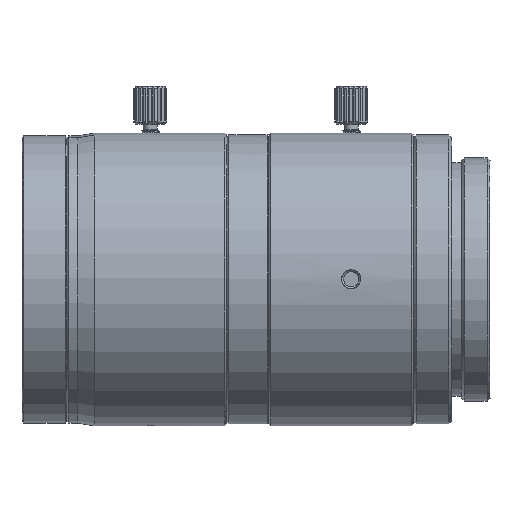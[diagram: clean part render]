
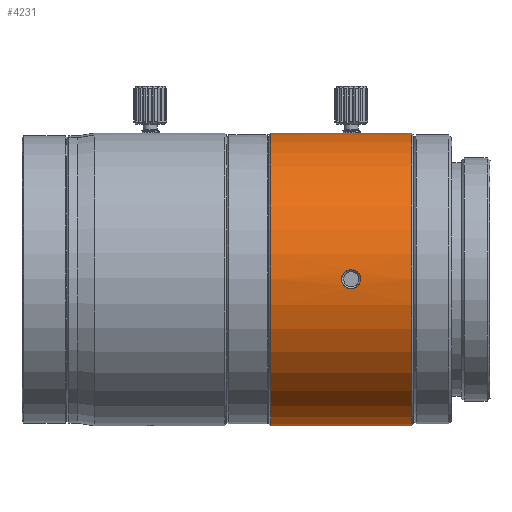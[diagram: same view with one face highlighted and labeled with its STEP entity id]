
A CAD part, top view. The second image highlights one B-rep face of the part: STEP entity #4231.
In plain terms, the highlighted cylindrical face has radius 15.3 mm (diameter 30.6 mm), a partial arc.
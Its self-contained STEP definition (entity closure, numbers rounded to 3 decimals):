
#5=CARTESIAN_POINT('',(-12.,0.,15.3));
#6=CARTESIAN_POINT('',(-12.,0.091,15.3));
#7=CARTESIAN_POINT('',(-12.025,0.266,15.298));
#8=CARTESIAN_POINT('',(-12.141,0.522,15.292));
#9=CARTESIAN_POINT('',(-12.328,0.735,15.283));
#10=CARTESIAN_POINT('',(-12.571,0.891,15.274));
#11=CARTESIAN_POINT('',(-12.853,0.973,15.269));
#12=CARTESIAN_POINT('',(-13.147,0.973,15.269));
#13=CARTESIAN_POINT('',(-13.429,0.891,15.274));
#14=CARTESIAN_POINT('',(-13.672,0.735,15.283));
#15=CARTESIAN_POINT('',(-13.859,0.522,15.292));
#16=CARTESIAN_POINT('',(-13.975,0.266,15.298));
#17=CARTESIAN_POINT('',(-14.,0.091,15.3));
#18=CARTESIAN_POINT('',(-14.,0.,15.3));
#20=CARTESIAN_POINT('',(-14.,0.,15.3));
#21=CARTESIAN_POINT('',(-14.,-0.091,15.3));
#22=CARTESIAN_POINT('',(-13.975,-0.266,15.298));
#23=CARTESIAN_POINT('',(-13.859,-0.522,15.292));
#24=CARTESIAN_POINT('',(-13.672,-0.735,15.283));
#25=CARTESIAN_POINT('',(-13.429,-0.891,15.274));
#26=CARTESIAN_POINT('',(-13.147,-0.973,15.269));
#27=CARTESIAN_POINT('',(-12.853,-0.973,15.269));
#28=CARTESIAN_POINT('',(-12.571,-0.891,15.274));
#29=CARTESIAN_POINT('',(-12.328,-0.735,15.283));
#30=CARTESIAN_POINT('',(-12.141,-0.522,15.292));
#31=CARTESIAN_POINT('',(-12.025,-0.266,15.298));
#32=CARTESIAN_POINT('',(-12.,-0.091,15.3));
#33=CARTESIAN_POINT('',(-12.,0.,15.3));
#35=CARTESIAN_POINT('',(-13.839,15.291,0.528));
#36=CARTESIAN_POINT('',(-13.835,15.291,0.536));
#37=CARTESIAN_POINT('',(-13.828,15.29,0.553));
#38=CARTESIAN_POINT('',(-13.82,15.289,0.57));
#39=CARTESIAN_POINT('',(-13.816,15.289,0.578));
#41=CARTESIAN_POINT('',(-13.816,15.289,0.578));
#42=CARTESIAN_POINT('',(-13.781,15.287,0.627));
#43=CARTESIAN_POINT('',(-13.705,15.283,0.717));
#44=CARTESIAN_POINT('',(-13.569,15.278,0.829));
#45=CARTESIAN_POINT('',(-13.467,15.274,0.886));
#46=CARTESIAN_POINT('',(-13.414,15.273,0.91));
#48=CARTESIAN_POINT('',(-13.414,15.273,0.91));
#49=CARTESIAN_POINT('',(-13.376,15.272,0.922));
#50=CARTESIAN_POINT('',(-13.301,15.271,0.939));
#51=CARTESIAN_POINT('',(-13.227,15.271,0.949));
#52=CARTESIAN_POINT('',(-13.191,15.27,0.951));
#54=CARTESIAN_POINT('',(-13.191,15.27,0.951));
#55=CARTESIAN_POINT('',(-13.105,15.269,0.968));
#56=CARTESIAN_POINT('',(-12.936,15.269,0.978));
#57=CARTESIAN_POINT('',(-12.681,15.272,0.93));
#58=CARTESIAN_POINT('',(-12.45,15.278,0.822));
#59=CARTESIAN_POINT('',(-12.255,15.286,0.662));
#60=CARTESIAN_POINT('',(-12.109,15.294,0.462));
#61=CARTESIAN_POINT('',(-12.019,15.299,0.234));
#62=CARTESIAN_POINT('',(-12.,15.3,0.079));
#63=CARTESIAN_POINT('',(-12.,15.3,0.));
#65=CARTESIAN_POINT('',(-6.7,0.,0.));
#66=DIRECTION('',(1.,0.,0.));
#67=DIRECTION('',(0.,1.,0.));
#68=AXIS2_PLACEMENT_3D('',#65,#66,#67);
#70=CARTESIAN_POINT('',(-21.4,0.,0.));
#71=DIRECTION('',(-1.,0.,0.));
#72=DIRECTION('',(0.,-1.,0.));
#73=AXIS2_PLACEMENT_3D('',#70,#71,#72);
#75=CARTESIAN_POINT('',(-14.,15.3,0.));
#76=CARTESIAN_POINT('',(-14.,15.3,0.062));
#77=CARTESIAN_POINT('',(-13.988,15.299,0.184));
#78=CARTESIAN_POINT('',(-13.934,15.296,0.362));
#79=CARTESIAN_POINT('',(-13.875,15.293,0.474));
#80=CARTESIAN_POINT('',(-13.839,15.291,0.528));
#311=DIRECTION('',(-1.,0.,0.));
#312=VECTOR('',#311,7.4);
#313=CARTESIAN_POINT('',(-14.,15.3,0.));
#314=LINE('',#313,#312);
#320=DIRECTION('',(1.,0.,0.));
#321=VECTOR('',#320,14.7);
#322=CARTESIAN_POINT('',(-21.4,-15.3,0.));
#323=LINE('',#322,#321);
#329=DIRECTION('',(-1.,0.,0.));
#330=VECTOR('',#329,5.3);
#331=CARTESIAN_POINT('',(-6.7,15.3,0.));
#332=LINE('',#331,#330);
#3578=CARTESIAN_POINT('',(-6.7,15.3,0.));
#3579=VERTEX_POINT('',#3578);
#3580=CARTESIAN_POINT('',(-6.7,-15.3,0.));
#3581=VERTEX_POINT('',#3580);
#3582=CARTESIAN_POINT('',(-12.,15.3,0.));
#3583=VERTEX_POINT('',#3582);
#3584=CARTESIAN_POINT('',(-21.4,-15.3,0.));
#3585=VERTEX_POINT('',#3584);
#3586=CARTESIAN_POINT('',(-14.,15.3,0.));
#3587=CARTESIAN_POINT('',(-21.4,15.3,0.));
#3588=VERTEX_POINT('',#3586);
#3589=VERTEX_POINT('',#3587);
#3639=CARTESIAN_POINT('',(-12.,0.,15.3));
#3640=VERTEX_POINT('',#3639);
#3641=CARTESIAN_POINT('',(-14.,0.,15.3));
#3642=VERTEX_POINT('',#3641);
#3986=VERTEX_POINT('',#35);
#3987=VERTEX_POINT('',#39);
#3988=VERTEX_POINT('',#46);
#3989=VERTEX_POINT('',#52);
#4199=CARTESIAN_POINT('',(-21.694,0.,0.));
#4200=DIRECTION('',(1.,0.,0.));
#4201=DIRECTION('',(0.,-1.,0.));
#4202=AXIS2_PLACEMENT_3D('',#4199,#4200,#4201);
#4203=CYLINDRICAL_SURFACE('',#4202,15.3);
#4205=ORIENTED_EDGE('',*,*,#4204,.T.);
#4207=ORIENTED_EDGE('',*,*,#4206,.T.);
#4208=ORIENTED_EDGE('',*,*,#4174,.T.);
#4210=ORIENTED_EDGE('',*,*,#4209,.T.);
#4212=ORIENTED_EDGE('',*,*,#4211,.F.);
#4214=ORIENTED_EDGE('',*,*,#4213,.T.);
#4216=ORIENTED_EDGE('',*,*,#4215,.F.);
#4218=ORIENTED_EDGE('',*,*,#4217,.T.);
#4220=ORIENTED_EDGE('',*,*,#4219,.F.);
#4222=ORIENTED_EDGE('',*,*,#4221,.T.);
#4223=EDGE_LOOP('',(#4205,#4207,#4208,#4210,#4212,#4214,#4216,#4218,#4220,
#4222));
#4224=FACE_OUTER_BOUND('',#4223,.F.);
#4226=ORIENTED_EDGE('',*,*,#4225,.T.);
#4228=ORIENTED_EDGE('',*,*,#4227,.T.);
#4229=EDGE_LOOP('',(#4226,#4228));
#4230=FACE_BOUND('',#4229,.F.);
#19=B_SPLINE_CURVE_WITH_KNOTS('',3,(#5,#6,#7,#8,#9,#10,#11,#12,#13,#14,#15,#16,
#17,#18),.UNSPECIFIED.,.F.,.F.,(4,1,1,1,1,1,1,1,1,1,1,4),(0.,
0.091,0.182,0.273,0.364,
0.455,0.545,0.636,0.727,
0.818,0.909,1.),.UNSPECIFIED.);
#34=B_SPLINE_CURVE_WITH_KNOTS('',3,(#20,#21,#22,#23,#24,#25,#26,#27,#28,#29,#30,
#31,#32,#33),.UNSPECIFIED.,.F.,.F.,(4,1,1,1,1,1,1,1,1,1,1,4),(0.,
0.091,0.182,0.273,0.364,
0.455,0.545,0.636,0.727,
0.818,0.909,1.),.UNSPECIFIED.);
#40=B_SPLINE_CURVE_WITH_KNOTS('',3,(#35,#36,#37,#38,#39),.UNSPECIFIED.,.F.,.F.,(
4,1,4),(0.,0.5,1.),.UNSPECIFIED.);
#47=B_SPLINE_CURVE_WITH_KNOTS('',3,(#41,#42,#43,#44,#45,#46),.UNSPECIFIED.,.F.,
.F.,(4,1,1,4),(0.,0.333,0.667,1.),.UNSPECIFIED.);
#53=B_SPLINE_CURVE_WITH_KNOTS('',3,(#48,#49,#50,#51,#52),.UNSPECIFIED.,.F.,.F.,(
4,1,4),(0.,0.5,1.),.UNSPECIFIED.);
#64=B_SPLINE_CURVE_WITH_KNOTS('',3,(#54,#55,#56,#57,#58,#59,#60,#61,#62,#63),
.UNSPECIFIED.,.F.,.F.,(4,1,1,1,1,1,1,4),(0.,0.143,
0.286,0.429,0.571,0.714,
0.857,1.),.UNSPECIFIED.);
#69=CIRCLE('',#68,15.3);
#74=CIRCLE('',#73,15.3);
#81=B_SPLINE_CURVE_WITH_KNOTS('',3,(#75,#76,#77,#78,#79,#80),.UNSPECIFIED.,.F.,
.F.,(4,1,1,4),(0.,0.333,0.667,1.),.UNSPECIFIED.);
#4174=EDGE_CURVE('',#3988,#3989,#53,.T.);
#4204=EDGE_CURVE('',#3986,#3987,#40,.T.);
#4206=EDGE_CURVE('',#3987,#3988,#47,.T.);
#4209=EDGE_CURVE('',#3989,#3583,#64,.T.);
#4211=EDGE_CURVE('',#3579,#3583,#332,.T.);
#4213=EDGE_CURVE('',#3579,#3581,#69,.T.);
#4215=EDGE_CURVE('',#3585,#3581,#323,.T.);
#4217=EDGE_CURVE('',#3585,#3589,#74,.T.);
#4219=EDGE_CURVE('',#3588,#3589,#314,.T.);
#4221=EDGE_CURVE('',#3588,#3986,#81,.T.);
#4225=EDGE_CURVE('',#3640,#3642,#19,.T.);
#4227=EDGE_CURVE('',#3642,#3640,#34,.T.);
#4231=ADVANCED_FACE('',(#4224,#4230),#4203,.T.);
